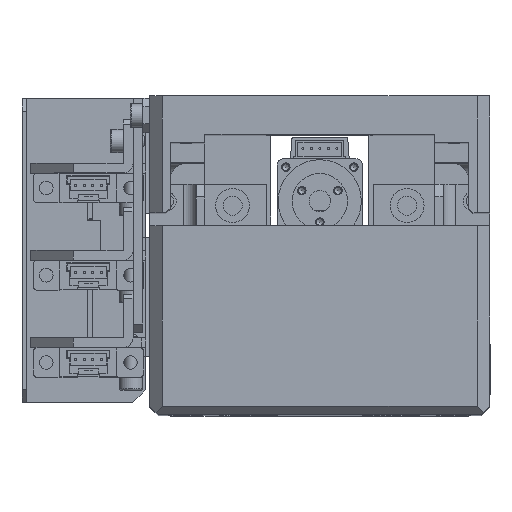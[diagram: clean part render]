
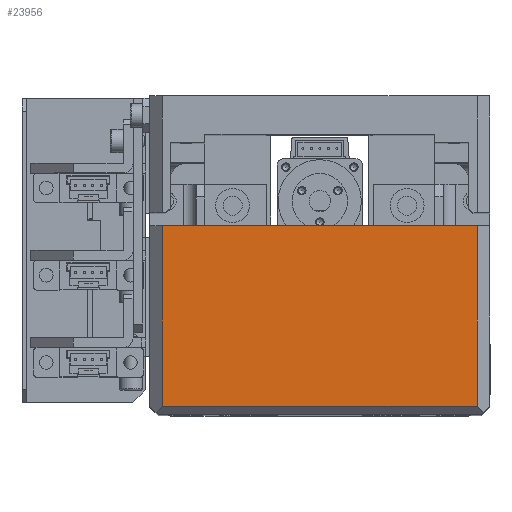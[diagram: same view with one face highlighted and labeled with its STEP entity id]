
A CAD part, top view. The second image highlights one B-rep face of the part: STEP entity #23956.
In plain terms, the highlighted planar face has unit normal (0, 0, 1) as drawn and (1, 0, 0) by its records, which use the part's own axes.
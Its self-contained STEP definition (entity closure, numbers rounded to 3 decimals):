
#781=PLANE('',#25401);
#1647=LINE('',#33188,#3074);
#1835=LINE('',#33703,#3262);
#1836=LINE('',#33705,#3263);
#1837=LINE('',#33707,#3264);
#3074=VECTOR('',#27857,1000.);
#3262=VECTOR('',#28309,1000.);
#3263=VECTOR('',#28310,1000.);
#3264=VECTOR('',#28311,1000.);
#5398=ORIENTED_EDGE('',*,*,#9538,.F.);
#5399=ORIENTED_EDGE('',*,*,#9267,.F.);
#5400=ORIENTED_EDGE('',*,*,#9539,.F.);
#5401=ORIENTED_EDGE('',*,*,#9540,.F.);
#9267=EDGE_CURVE('',#11455,#11456,#1647,.T.);
#9538=EDGE_CURVE('',#11456,#11651,#1835,.T.);
#9539=EDGE_CURVE('',#11652,#11455,#1836,.T.);
#9540=EDGE_CURVE('',#11651,#11652,#1837,.T.);
#11455=VERTEX_POINT('',#33187);
#11456=VERTEX_POINT('',#33189);
#11651=VERTEX_POINT('',#33704);
#11652=VERTEX_POINT('',#33706);
#13917=EDGE_LOOP('',(#5398,#5399,#5400,#5401));
#15687=FACE_BOUND('',#13917,.T.);
#23956=ADVANCED_FACE('',(#15687),#781,.T.);
#25401=AXIS2_PLACEMENT_3D('',#33702,#28307,#28308);
#27857=DIRECTION('',(0.,-1.,0.));
#28307=DIRECTION('',(1.,0.,0.));
#28308=DIRECTION('',(0.,0.,-1.));
#28309=DIRECTION('',(0.,0.,1.));
#28310=DIRECTION('',(0.,0.,-1.));
#28311=DIRECTION('',(0.,1.,0.));
#33187=CARTESIAN_POINT('',(113.51,11.8,-34.311));
#33188=CARTESIAN_POINT('',(113.51,4.8,-34.311));
#33189=CARTESIAN_POINT('',(113.51,-62.2,-34.311));
#33702=CARTESIAN_POINT('',(113.51,4.8,7.232));
#33703=CARTESIAN_POINT('',(113.51,-62.2,7.232));
#33704=CARTESIAN_POINT('',(113.51,-62.2,8.189));
#33705=CARTESIAN_POINT('',(113.51,11.8,7.232));
#33706=CARTESIAN_POINT('',(113.51,11.8,8.189));
#33707=CARTESIAN_POINT('',(113.51,4.8,8.189));
